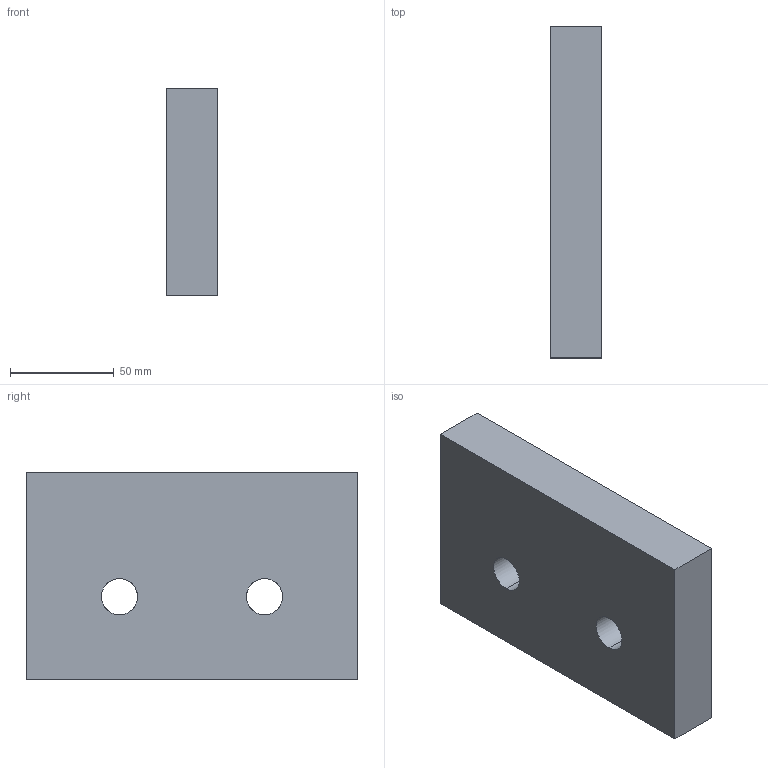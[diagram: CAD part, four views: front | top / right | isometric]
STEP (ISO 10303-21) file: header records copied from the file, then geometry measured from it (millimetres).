
FILE_DESCRIPTION(('CATIA V5 STEP Exchange'),'2;1');
FILE_NAME('C:\Users\Raffaele\Desktop\3D X SITO CF\A612\A611-100-160\A612-100-160.stp','2019-07-12T12:42:34+00:00',('none'),('none'),'CATIA Version 5 Release 20 GA (IN-10)','CATIA V5 STEP AP203','none');
FILE_SCHEMA(('CONFIG_CONTROL_DESIGN'));
Length unit declared in the file: millimetre
Products named in the file (1): A612-100-160
Bounding box: 25 x 160 x 100 mm (x, y, z)
Volume: 387973.6 mm3; surface area: 46786.8 mm2
Topology: 1 solids, 1 shells, 10 faces, 32 edges, 24 vertices
Faces by surface type: plane 6, cylinder 4
Entity records: 506 total; most frequent: CARTESIAN_POINT 179, ORIENTED_EDGE 64, DIRECTION 44, EDGE_CURVE 32, VERTEX_POINT 24, AXIS2_PLACEMENT_3D 19, VECTOR 16, LINE 16
